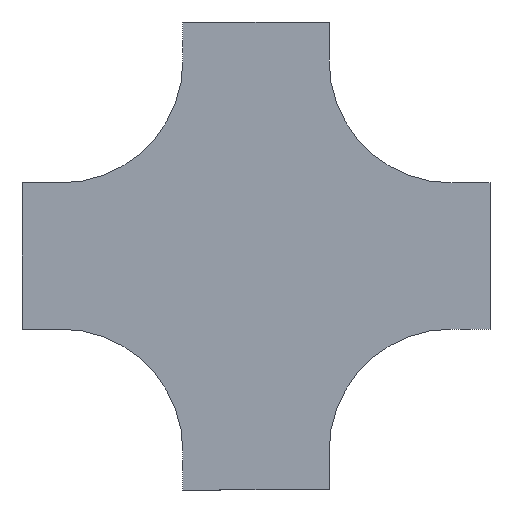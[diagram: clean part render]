
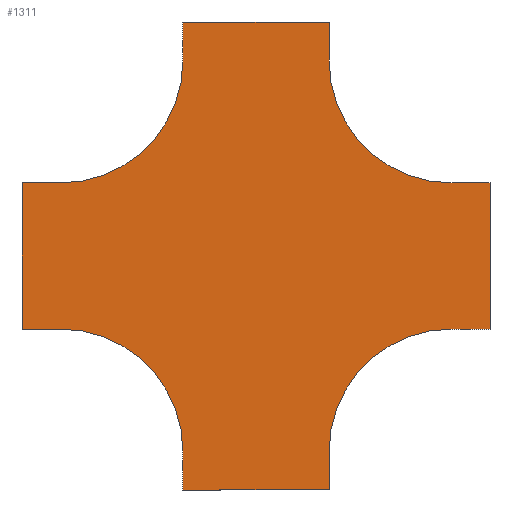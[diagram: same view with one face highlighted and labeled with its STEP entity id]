
A CAD part, front view. The second image highlights one B-rep face of the part: STEP entity #1311.
In plain terms, the highlighted planar face has unit normal (0, -1, 0).
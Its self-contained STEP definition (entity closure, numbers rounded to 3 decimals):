
#61 = FACE_OUTER_BOUND ( 'NONE', #328, .T. ) ;
#114 = ORIENTED_EDGE ( 'NONE', *, *, #1915, .F. ) ;
#178 = EDGE_CURVE ( 'NONE', #887, #1328, #1291, .T. ) ;
#221 = VERTEX_POINT ( 'NONE', #2302 ) ;
#226 = DIRECTION ( 'NONE',  ( 0., 0., 1. ) ) ;
#245 = VECTOR ( 'NONE', #2885, 1000. ) ;
#318 = CARTESIAN_POINT ( 'NONE',  ( 40., 0., -275. ) ) ;
#323 = ORIENTED_EDGE ( 'NONE', *, *, #3040, .F. ) ;
#324 = CARTESIAN_POINT ( 'NONE',  ( -400., 0., -275. ) ) ;
#328 = EDGE_LOOP ( 'NONE', ( #670, #2138, #1096, #114, #1234, #323, #1934, #3010, #2355, #942, #2582, #1900, #1192, #456, #1675, #2035 ) ) ;
#340 = VERTEX_POINT ( 'NONE', #3133 ) ;
#341 = CARTESIAN_POINT ( 'NONE',  ( -125., 0., 40. ) ) ;
#366 = VECTOR ( 'NONE', #2809, 1000. ) ;
#401 = DIRECTION ( 'NONE',  ( 0., 0., -1. ) ) ;
#438 = EDGE_CURVE ( 'NONE', #1328, #1572, #2721, .T. ) ;
#456 = ORIENTED_EDGE ( 'NONE', *, *, #572, .F. ) ;
#525 = EDGE_CURVE ( 'NONE', #2667, #1709, #2001, .T. ) ;
#543 = EDGE_CURVE ( 'NONE', #861, #887, #1741, .T. ) ;
#558 = CARTESIAN_POINT ( 'NONE',  ( -440., 0., -275. ) ) ;
#572 = EDGE_CURVE ( 'NONE', #340, #992, #3048, .T. ) ;
#627 = CARTESIAN_POINT ( 'NONE',  ( -275., 0., -440. ) ) ;
#649 = CARTESIAN_POINT ( 'NONE',  ( -275., 0., 0. ) ) ;
#670 = ORIENTED_EDGE ( 'NONE', *, *, #178, .F. ) ;
#686 = DIRECTION ( 'NONE',  ( 0., -1., 0. ) ) ;
#694 = AXIS2_PLACEMENT_3D ( 'NONE', #1354, #820, #1339 ) ;
#747 = VECTOR ( 'NONE', #2783, 1000. ) ;
#758 = CARTESIAN_POINT ( 'NONE',  ( -275., 0., 40. ) ) ;
#768 = DIRECTION ( 'NONE',  ( 1., 0., 0. ) ) ;
#769 = VERTEX_POINT ( 'NONE', #2549 ) ;
#776 = CARTESIAN_POINT ( 'NONE',  ( 0., 0., 0. ) ) ;
#800 = CARTESIAN_POINT ( 'NONE',  ( 0., 0., -275. ) ) ;
#820 = DIRECTION ( 'NONE',  ( 0., -1., 0. ) ) ;
#822 = DIRECTION ( 'NONE',  ( 0., -1., 0. ) ) ;
#837 = CIRCLE ( 'NONE', #2110, 125. ) ;
#840 = VECTOR ( 'NONE', #2256, 1000. ) ;
#841 = VECTOR ( 'NONE', #401, 1000. ) ;
#861 = VERTEX_POINT ( 'NONE', #649 ) ;
#887 = VERTEX_POINT ( 'NONE', #1144 ) ;
#942 = ORIENTED_EDGE ( 'NONE', *, *, #1594, .F. ) ;
#952 = VECTOR ( 'NONE', #2217, 1000. ) ;
#992 = VERTEX_POINT ( 'NONE', #3292 ) ;
#1060 = AXIS2_PLACEMENT_3D ( 'NONE', #776, #1062, #3044 ) ;
#1062 = DIRECTION ( 'NONE',  ( 0., -1., 0. ) ) ;
#1096 = ORIENTED_EDGE ( 'NONE', *, *, #1630, .F. ) ;
#1127 = EDGE_CURVE ( 'NONE', #1572, #340, #2758, .T. ) ;
#1144 = CARTESIAN_POINT ( 'NONE',  ( -275., 0., 40. ) ) ;
#1192 = ORIENTED_EDGE ( 'NONE', *, *, #2872, .F. ) ;
#1208 = CARTESIAN_POINT ( 'NONE',  ( -275., 0., -440. ) ) ;
#1210 = DIRECTION ( 'NONE',  ( -1., 0., 0. ) ) ;
#1234 = ORIENTED_EDGE ( 'NONE', *, *, #525, .F. ) ;
#1259 = LINE ( 'NONE', #1208, #840 ) ;
#1291 = LINE ( 'NONE', #1565, #2597 ) ;
#1311 = ADVANCED_FACE ( 'NONE', ( #61 ), #2880, .T. ) ;
#1315 = DIRECTION ( 'NONE',  ( 0., 0., -1. ) ) ;
#1328 = VERTEX_POINT ( 'NONE', #341 ) ;
#1339 = DIRECTION ( 'NONE',  ( 0., 0., 1. ) ) ;
#1354 = CARTESIAN_POINT ( 'NONE',  ( -400., 0., 0. ) ) ;
#1405 = CARTESIAN_POINT ( 'NONE',  ( -125., 0., -440. ) ) ;
#1456 = VERTEX_POINT ( 'NONE', #3147 ) ;
#1467 = LINE ( 'NONE', #2476, #1589 ) ;
#1505 = LINE ( 'NONE', #2232, #366 ) ;
#1565 = CARTESIAN_POINT ( 'NONE',  ( -275., 0., 40. ) ) ;
#1572 = VERTEX_POINT ( 'NONE', #2051 ) ;
#1589 = VECTOR ( 'NONE', #1210, 1000. ) ;
#1594 = EDGE_CURVE ( 'NONE', #769, #3162, #2003, .T. ) ;
#1630 = EDGE_CURVE ( 'NONE', #3196, #861, #2920, .T. ) ;
#1675 = ORIENTED_EDGE ( 'NONE', *, *, #1127, .F. ) ;
#1709 = VERTEX_POINT ( 'NONE', #2100 ) ;
#1741 = LINE ( 'NONE', #758, #3126 ) ;
#1820 = AXIS2_PLACEMENT_3D ( 'NONE', #2399, #686, #2149 ) ;
#1900 = ORIENTED_EDGE ( 'NONE', *, *, #2290, .F. ) ;
#1915 = EDGE_CURVE ( 'NONE', #1709, #3196, #1505, .T. ) ;
#1930 = LINE ( 'NONE', #3169, #841 ) ;
#1934 = ORIENTED_EDGE ( 'NONE', *, *, #2103, .F. ) ;
#2001 = LINE ( 'NONE', #2237, #3181 ) ;
#2003 = LINE ( 'NONE', #2816, #747 ) ;
#2028 = VERTEX_POINT ( 'NONE', #800 ) ;
#2035 = ORIENTED_EDGE ( 'NONE', *, *, #438, .F. ) ;
#2051 = CARTESIAN_POINT ( 'NONE',  ( -125., 0., 0. ) ) ;
#2076 = AXIS2_PLACEMENT_3D ( 'NONE', #2119, #822, #2819 ) ;
#2084 = DIRECTION ( 'NONE',  ( 0., -1., 0. ) ) ;
#2100 = CARTESIAN_POINT ( 'NONE',  ( -440., 0., -125. ) ) ;
#2103 = EDGE_CURVE ( 'NONE', #1456, #221, #837, .T. ) ;
#2110 = AXIS2_PLACEMENT_3D ( 'NONE', #2625, #2084, #1315 ) ;
#2119 = CARTESIAN_POINT ( 'NONE',  ( 0., 0., 0. ) ) ;
#2138 = ORIENTED_EDGE ( 'NONE', *, *, #543, .F. ) ;
#2149 = DIRECTION ( 'NONE',  ( 0., 0., 1. ) ) ;
#2184 = CARTESIAN_POINT ( 'NONE',  ( -400., 0., -125. ) ) ;
#2203 = CARTESIAN_POINT ( 'NONE',  ( -125., 0., 40. ) ) ;
#2217 = DIRECTION ( 'NONE',  ( 0., 0., -1. ) ) ;
#2232 = CARTESIAN_POINT ( 'NONE',  ( -400., 0., -125. ) ) ;
#2237 = CARTESIAN_POINT ( 'NONE',  ( -440., 0., -125. ) ) ;
#2256 = DIRECTION ( 'NONE',  ( 0., 0., 1. ) ) ;
#2290 = EDGE_CURVE ( 'NONE', #2642, #2028, #1467, .T. ) ;
#2302 = CARTESIAN_POINT ( 'NONE',  ( -400., 0., -275. ) ) ;
#2355 = ORIENTED_EDGE ( 'NONE', *, *, #2793, .F. ) ;
#2399 = CARTESIAN_POINT ( 'NONE',  ( 0., 0., -400. ) ) ;
#2476 = CARTESIAN_POINT ( 'NONE',  ( 0., 0., -275. ) ) ;
#2478 = EDGE_CURVE ( 'NONE', #2674, #1456, #1259, .T. ) ;
#2534 = DIRECTION ( 'NONE',  ( 0., 0., 1. ) ) ;
#2549 = CARTESIAN_POINT ( 'NONE',  ( -125., 0., -400. ) ) ;
#2572 = DIRECTION ( 'NONE',  ( 1., 0., 0. ) ) ;
#2582 = ORIENTED_EDGE ( 'NONE', *, *, #3202, .F. ) ;
#2597 = VECTOR ( 'NONE', #2572, 1000. ) ;
#2625 = CARTESIAN_POINT ( 'NONE',  ( -400., 0., -400. ) ) ;
#2642 = VERTEX_POINT ( 'NONE', #318 ) ;
#2658 = LINE ( 'NONE', #627, #245 ) ;
#2667 = VERTEX_POINT ( 'NONE', #558 ) ;
#2674 = VERTEX_POINT ( 'NONE', #3075 ) ;
#2721 = LINE ( 'NONE', #2203, #952 ) ;
#2758 = CIRCLE ( 'NONE', #1060, 125. ) ;
#2783 = DIRECTION ( 'NONE',  ( 0., 0., -1. ) ) ;
#2793 = EDGE_CURVE ( 'NONE', #3162, #2674, #2658, .T. ) ;
#2809 = DIRECTION ( 'NONE',  ( 1., 0., 0. ) ) ;
#2816 = CARTESIAN_POINT ( 'NONE',  ( -125., 0., -440. ) ) ;
#2819 = DIRECTION ( 'NONE',  ( 0., 0., -1. ) ) ;
#2846 = DIRECTION ( 'NONE',  ( -1., 0., 0. ) ) ;
#2863 = LINE ( 'NONE', #324, #3117 ) ;
#2872 = EDGE_CURVE ( 'NONE', #992, #2642, #1930, .T. ) ;
#2880 = PLANE ( 'NONE',  #2076 ) ;
#2885 = DIRECTION ( 'NONE',  ( -1., 0., 0. ) ) ;
#2920 = CIRCLE ( 'NONE', #694, 125. ) ;
#3010 = ORIENTED_EDGE ( 'NONE', *, *, #2478, .F. ) ;
#3035 = CARTESIAN_POINT ( 'NONE',  ( 0., 0., -125. ) ) ;
#3040 = EDGE_CURVE ( 'NONE', #221, #2667, #2863, .T. ) ;
#3044 = DIRECTION ( 'NONE',  ( 0., 0., -1. ) ) ;
#3048 = LINE ( 'NONE', #3035, #3232 ) ;
#3075 = CARTESIAN_POINT ( 'NONE',  ( -275., 0., -440. ) ) ;
#3117 = VECTOR ( 'NONE', #2846, 1000. ) ;
#3126 = VECTOR ( 'NONE', #2534, 1000. ) ;
#3133 = CARTESIAN_POINT ( 'NONE',  ( 0., 0., -125. ) ) ;
#3147 = CARTESIAN_POINT ( 'NONE',  ( -275., 0., -400. ) ) ;
#3162 = VERTEX_POINT ( 'NONE', #1405 ) ;
#3169 = CARTESIAN_POINT ( 'NONE',  ( 40., 0., -125. ) ) ;
#3181 = VECTOR ( 'NONE', #226, 1000. ) ;
#3196 = VERTEX_POINT ( 'NONE', #2184 ) ;
#3202 = EDGE_CURVE ( 'NONE', #2028, #769, #3253, .T. ) ;
#3232 = VECTOR ( 'NONE', #768, 1000. ) ;
#3253 = CIRCLE ( 'NONE', #1820, 125. ) ;
#3292 = CARTESIAN_POINT ( 'NONE',  ( 40., 0., -125. ) ) ;
